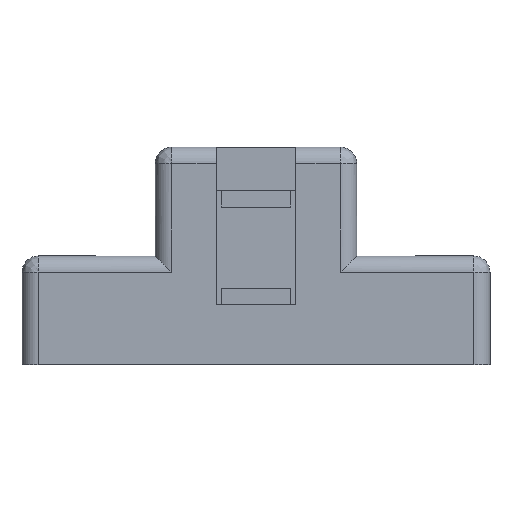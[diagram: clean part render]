
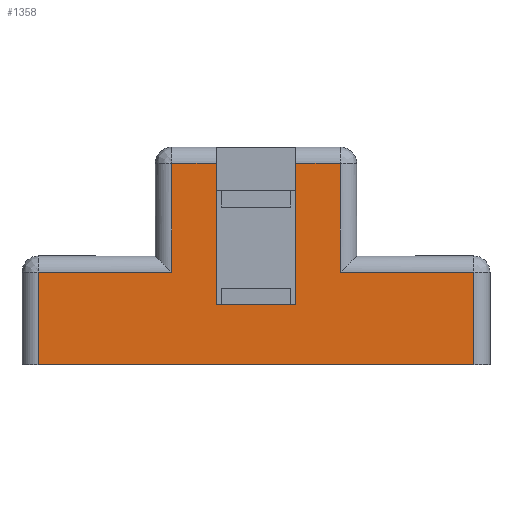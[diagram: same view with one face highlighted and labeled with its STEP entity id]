
A CAD part, left-side view. The second image highlights one B-rep face of the part: STEP entity #1358.
In plain terms, the highlighted planar face has unit normal (-1, 0, 0).
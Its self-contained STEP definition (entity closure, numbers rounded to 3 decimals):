
#32 = EDGE_CURVE ( 'NONE', #3280, #2937, #229, .T. ) ;
#58 = LINE ( 'NONE', #1454, #2965 ) ;
#229 = LINE ( 'NONE', #2282, #885 ) ;
#247 = CARTESIAN_POINT ( 'NONE',  ( -13.25, 7.75, 10. ) ) ;
#251 = ORIENTED_EDGE ( 'NONE', *, *, #1003, .F. ) ;
#305 = DIRECTION ( 'NONE',  ( 1., 0., 0. ) ) ;
#349 = CARTESIAN_POINT ( 'NONE',  ( -13.25, 7.75, 18.5 ) ) ;
#460 = EDGE_CURVE ( 'NONE', #2436, #1885, #2652, .T. ) ;
#513 = CARTESIAN_POINT ( 'NONE',  ( -13.25, -20., 10. ) ) ;
#523 = DIRECTION ( 'NONE',  ( 0., 0., 1. ) ) ;
#586 = CARTESIAN_POINT ( 'NONE',  ( -13.25, 21.5, 10. ) ) ;
#694 = CARTESIAN_POINT ( 'NONE',  ( -13.25, -3.65, 10. ) ) ;
#699 = LINE ( 'NONE', #1373, #2958 ) ;
#709 = VECTOR ( 'NONE', #523, 1000. ) ;
#784 = DIRECTION ( 'NONE',  ( 0., 0., -1. ) ) ;
#799 = VERTEX_POINT ( 'NONE', #3151 ) ;
#830 = CARTESIAN_POINT ( 'NONE',  ( -13.25, 20., 8.5 ) ) ;
#833 = VECTOR ( 'NONE', #3030, 1000. ) ;
#844 = EDGE_CURVE ( 'NONE', #2937, #2795, #1998, .T. ) ;
#848 = VERTEX_POINT ( 'NONE', #1519 ) ;
#865 = PLANE ( 'NONE',  #3587 ) ;
#885 = VECTOR ( 'NONE', #1146, 1000. ) ;
#940 = CARTESIAN_POINT ( 'NONE',  ( -13.25, 7.75, 8.5 ) ) ;
#1003 = EDGE_CURVE ( 'NONE', #848, #2436, #58, .T. ) ;
#1043 = CARTESIAN_POINT ( 'NONE',  ( -13.25, 21.5, 5.5 ) ) ;
#1053 = ORIENTED_EDGE ( 'NONE', *, *, #1523, .F. ) ;
#1056 = CARTESIAN_POINT ( 'NONE',  ( -13.25, 21.5, 18.5 ) ) ;
#1119 = LINE ( 'NONE', #513, #1785 ) ;
#1146 = DIRECTION ( 'NONE',  ( 0., -1., 0. ) ) ;
#1150 = VERTEX_POINT ( 'NONE', #1232 ) ;
#1177 = DIRECTION ( 'NONE',  ( 0., 0., 1. ) ) ;
#1232 = CARTESIAN_POINT ( 'NONE',  ( -13.25, -3.65, 5.5 ) ) ;
#1243 = VECTOR ( 'NONE', #3182, 1000. ) ;
#1317 = CARTESIAN_POINT ( 'NONE',  ( -13.25, 3.65, 10. ) ) ;
#1336 = VERTEX_POINT ( 'NONE', #2950 ) ;
#1354 = DIRECTION ( 'NONE',  ( 0., -1., 0. ) ) ;
#1358 = ADVANCED_FACE ( 'NONE', ( #3502 ), #865, .F. ) ;
#1373 = CARTESIAN_POINT ( 'NONE',  ( -13.25, 0., 0. ) ) ;
#1386 = ORIENTED_EDGE ( 'NONE', *, *, #460, .F. ) ;
#1418 = VECTOR ( 'NONE', #1354, 1000. ) ;
#1454 = CARTESIAN_POINT ( 'NONE',  ( -13.25, 20., 10. ) ) ;
#1456 = CARTESIAN_POINT ( 'NONE',  ( -13.25, -3.65, 18.5 ) ) ;
#1459 = LINE ( 'NONE', #2627, #2956 ) ;
#1491 = CARTESIAN_POINT ( 'NONE',  ( -13.25, -7.75, 10. ) ) ;
#1519 = CARTESIAN_POINT ( 'NONE',  ( -13.25, 20., 0. ) ) ;
#1523 = EDGE_CURVE ( 'NONE', #2795, #799, #1459, .T. ) ;
#1532 = EDGE_LOOP ( 'NONE', ( #2917, #1053, #2938, #2555, #1630, #2819, #1922, #2066, #2749, #1386, #251, #1723 ) ) ;
#1630 = ORIENTED_EDGE ( 'NONE', *, *, #1968, .F. ) ;
#1723 = ORIENTED_EDGE ( 'NONE', *, *, #3580, .T. ) ;
#1728 = VERTEX_POINT ( 'NONE', #2156 ) ;
#1765 = EDGE_CURVE ( 'NONE', #1728, #1150, #2159, .T. ) ;
#1785 = VECTOR ( 'NONE', #784, 1000. ) ;
#1803 = EDGE_CURVE ( 'NONE', #2840, #1336, #2074, .T. ) ;
#1885 = VERTEX_POINT ( 'NONE', #940 ) ;
#1922 = ORIENTED_EDGE ( 'NONE', *, *, #3436, .F. ) ;
#1968 = EDGE_CURVE ( 'NONE', #1150, #3280, #2474, .T. ) ;
#1998 = LINE ( 'NONE', #1491, #1243 ) ;
#2066 = ORIENTED_EDGE ( 'NONE', *, *, #1803, .F. ) ;
#2074 = LINE ( 'NONE', #1056, #1418 ) ;
#2156 = CARTESIAN_POINT ( 'NONE',  ( -13.25, 3.65, 5.5 ) ) ;
#2159 = LINE ( 'NONE', #1043, #833 ) ;
#2282 = CARTESIAN_POINT ( 'NONE',  ( -13.25, 21.5, 18.5 ) ) ;
#2337 = DIRECTION ( 'NONE',  ( 0., -1., 0. ) ) ;
#2339 = CARTESIAN_POINT ( 'NONE',  ( -13.25, -7.75, 18.5 ) ) ;
#2436 = VERTEX_POINT ( 'NONE', #830 ) ;
#2474 = LINE ( 'NONE', #694, #3049 ) ;
#2480 = VECTOR ( 'NONE', #3004, 1000. ) ;
#2545 = DIRECTION ( 'NONE',  ( 0., 1., 0. ) ) ;
#2555 = ORIENTED_EDGE ( 'NONE', *, *, #32, .F. ) ;
#2560 = LINE ( 'NONE', #247, #709 ) ;
#2627 = CARTESIAN_POINT ( 'NONE',  ( -13.25, 21.5, 8.5 ) ) ;
#2652 = LINE ( 'NONE', #2747, #3250 ) ;
#2666 = DIRECTION ( 'NONE',  ( 0., 0., 1. ) ) ;
#2691 = VERTEX_POINT ( 'NONE', #3275 ) ;
#2743 = EDGE_CURVE ( 'NONE', #799, #2691, #1119, .T. ) ;
#2747 = CARTESIAN_POINT ( 'NONE',  ( -13.25, 21.5, 8.5 ) ) ;
#2749 = ORIENTED_EDGE ( 'NONE', *, *, #3085, .F. ) ;
#2761 = DIRECTION ( 'NONE',  ( 0., -1., 0. ) ) ;
#2795 = VERTEX_POINT ( 'NONE', #2857 ) ;
#2819 = ORIENTED_EDGE ( 'NONE', *, *, #1765, .F. ) ;
#2840 = VERTEX_POINT ( 'NONE', #349 ) ;
#2857 = CARTESIAN_POINT ( 'NONE',  ( -13.25, -7.75, 8.5 ) ) ;
#2917 = ORIENTED_EDGE ( 'NONE', *, *, #2743, .F. ) ;
#2937 = VERTEX_POINT ( 'NONE', #2339 ) ;
#2938 = ORIENTED_EDGE ( 'NONE', *, *, #844, .F. ) ;
#2950 = CARTESIAN_POINT ( 'NONE',  ( -13.25, 3.65, 18.5 ) ) ;
#2956 = VECTOR ( 'NONE', #2337, 1000. ) ;
#2958 = VECTOR ( 'NONE', #2761, 1000. ) ;
#2965 = VECTOR ( 'NONE', #1177, 1000. ) ;
#3004 = DIRECTION ( 'NONE',  ( 0., 0., -1. ) ) ;
#3030 = DIRECTION ( 'NONE',  ( 0., -1., 0. ) ) ;
#3035 = DIRECTION ( 'NONE',  ( 0., -1., 0. ) ) ;
#3049 = VECTOR ( 'NONE', #2666, 1000. ) ;
#3085 = EDGE_CURVE ( 'NONE', #1885, #2840, #2560, .T. ) ;
#3151 = CARTESIAN_POINT ( 'NONE',  ( -13.25, -20., 8.5 ) ) ;
#3182 = DIRECTION ( 'NONE',  ( 0., 0., -1. ) ) ;
#3239 = LINE ( 'NONE', #1317, #2480 ) ;
#3250 = VECTOR ( 'NONE', #3035, 1000. ) ;
#3275 = CARTESIAN_POINT ( 'NONE',  ( -13.25, -20., 0. ) ) ;
#3280 = VERTEX_POINT ( 'NONE', #1456 ) ;
#3436 = EDGE_CURVE ( 'NONE', #1336, #1728, #3239, .T. ) ;
#3502 = FACE_OUTER_BOUND ( 'NONE', #1532, .T. ) ;
#3580 = EDGE_CURVE ( 'NONE', #848, #2691, #699, .T. ) ;
#3587 = AXIS2_PLACEMENT_3D ( 'NONE', #586, #305, #2545 ) ;
